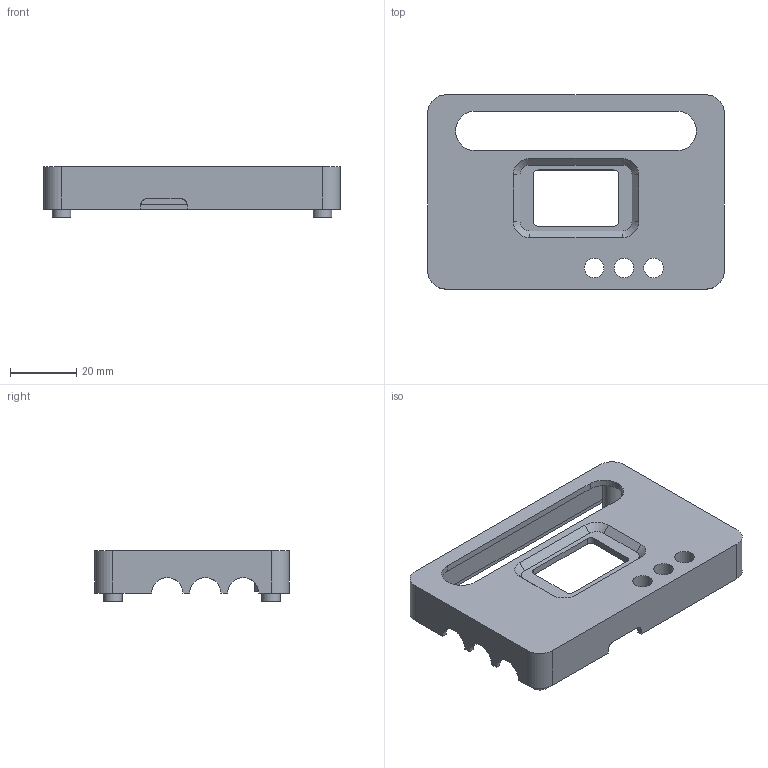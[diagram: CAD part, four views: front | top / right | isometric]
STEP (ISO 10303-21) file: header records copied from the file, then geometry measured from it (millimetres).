
FILE_DESCRIPTION(('Open CASCADE Model'),'2;1');
FILE_NAME('Open CASCADE Shape Model','2026-10-05T20:28:06',('Author'),( 'Open CASCADE'),'Open CASCADE STEP processor 7.9','Open CASCADE 7.9' ,'Unknown');
FILE_SCHEMA(('AUTOMOTIVE_DESIGN { 1 0 10303 214 1 1 1 1 }'));
Length unit declared in the file: millimetre
Products named in the file (1): Open CASCADE STEP translator 7.9 2
Bounding box: 89.8 x 58.8 x 15.4 mm (x, y, z)
Volume: 15159.3 mm3; surface area: 17320.2 mm2
Topology: 1 solids, 1 shells, 125 faces, 318 edges, 212 vertices
Faces by surface type: plane 71, cylinder 46, cone 8
Full cylindrical faces by diameter (mm): 2.4 x4, 3.2 x4, 5.6 x4, 5.9 x3, 8 x3
Entity records: 7977 total; most frequent: CARTESIAN_POINT 1878, DIRECTION 1067, ORIENTED_EDGE 636, PCURVE 636, DEFINITIONAL_REPRESENTATION 636, LINE 514, VECTOR 514, EDGE_CURVE 318
